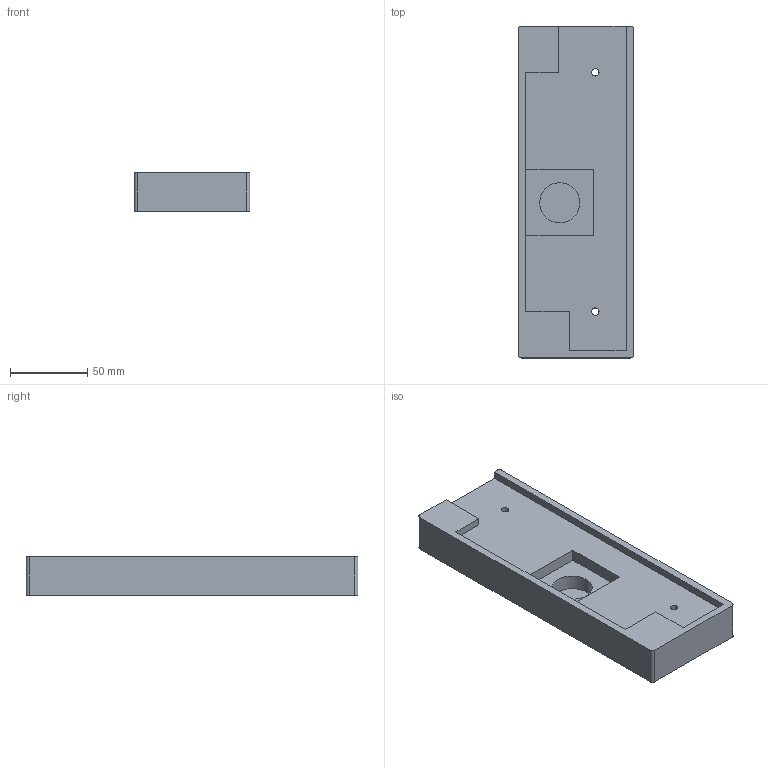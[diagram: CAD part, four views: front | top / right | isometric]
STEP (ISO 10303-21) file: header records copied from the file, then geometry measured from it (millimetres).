
FILE_DESCRIPTION (( 'STEP AP214' ), '1' );
FILE_NAME ('鯔.STEP', '2026-01-21T22:15:39', ( '' ), ( '' ), 'SwSTEP 2.0', 'SolidWorks 2024', '' );
FILE_SCHEMA (( 'AUTOMOTIVE_DESIGN' ));
Length unit declared in the file: millimetre
Products named in the file (1): уП
Bounding box: 75 x 215 x 25 mm (x, y, z)
Volume: 320323.4 mm3; surface area: 51673.7 mm2
Topology: 1 solids, 1 shells, 33 faces, 86 edges, 56 vertices
Faces by surface type: plane 19, cylinder 10, cone 4
Entity records: 1043 total; most frequent: DIRECTION 178, CARTESIAN_POINT 176, ORIENTED_EDGE 172, EDGE_CURVE 86, LINE 62, VECTOR 62, AXIS2_PLACEMENT_3D 58, VERTEX_POINT 56
